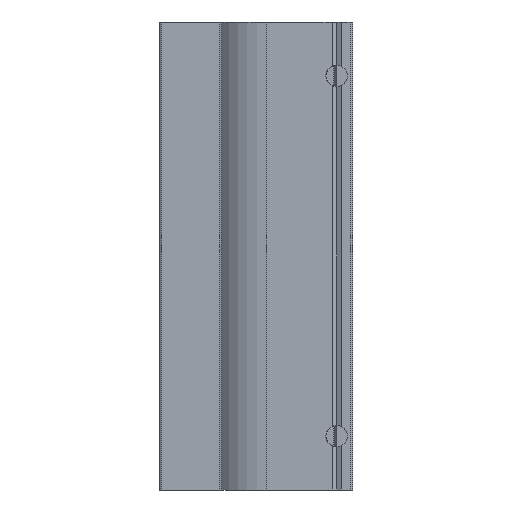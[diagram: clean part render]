
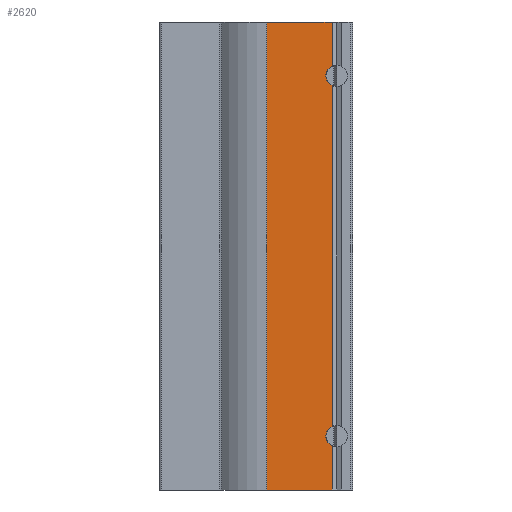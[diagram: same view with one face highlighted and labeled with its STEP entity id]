
A CAD part, left-side view. The second image highlights one B-rep face of the part: STEP entity #2620.
In plain terms, the highlighted planar face has unit normal (-1, 0, 0).
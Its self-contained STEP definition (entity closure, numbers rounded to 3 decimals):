
#45=LINE('',#4019,#237);
#46=LINE('',#4021,#238);
#47=LINE('',#4023,#239);
#48=LINE('',#4025,#240);
#49=LINE('',#4026,#241);
#50=LINE('',#4027,#242);
#237=VECTOR('',#3189,8.197);
#238=VECTOR('',#3190,12.134);
#239=VECTOR('',#3191,87.);
#240=VECTOR('',#3192,12.134);
#241=VECTOR('',#3193,8.197);
#242=VECTOR('',#3194,63.394);
#412=PLANE('',#2808);
#626=FACE_OUTER_BOUND('',#776,.T.);
#776=EDGE_LOOP('',(#1857,#1858,#1859,#1860,#1861,#1862,#1863,#1864));
#993=CIRCLE('',#2770,2.);
#1000=CIRCLE('',#2787,2.);
#1131=VERTEX_POINT('',#3883);
#1135=VERTEX_POINT('',#3891);
#1147=VERTEX_POINT('',#3926);
#1151=VERTEX_POINT('',#3934);
#1177=VERTEX_POINT('',#4018);
#1178=VERTEX_POINT('',#4020);
#1179=VERTEX_POINT('',#4022);
#1180=VERTEX_POINT('',#4024);
#1407=EDGE_CURVE('',#1131,#1135,#993,.T.);
#1423=EDGE_CURVE('',#1147,#1151,#1000,.T.);
#1460=EDGE_CURVE('',#1135,#1177,#45,.T.);
#1461=EDGE_CURVE('',#1177,#1178,#46,.T.);
#1462=EDGE_CURVE('',#1179,#1178,#47,.T.);
#1463=EDGE_CURVE('',#1179,#1180,#48,.T.);
#1464=EDGE_CURVE('',#1180,#1147,#49,.T.);
#1465=EDGE_CURVE('',#1151,#1131,#50,.T.);
#1857=ORIENTED_EDGE('',*,*,#1407,.T.);
#1858=ORIENTED_EDGE('',*,*,#1460,.T.);
#1859=ORIENTED_EDGE('',*,*,#1461,.T.);
#1860=ORIENTED_EDGE('',*,*,#1462,.F.);
#1861=ORIENTED_EDGE('',*,*,#1463,.T.);
#1862=ORIENTED_EDGE('',*,*,#1464,.T.);
#1863=ORIENTED_EDGE('',*,*,#1423,.T.);
#1864=ORIENTED_EDGE('',*,*,#1465,.T.);
#2620=ADVANCED_FACE('',(#626),#412,.T.);
#2770=AXIS2_PLACEMENT_3D('',#3893,#3086,#3087);
#2787=AXIS2_PLACEMENT_3D('',#3936,#3120,#3121);
#2808=AXIS2_PLACEMENT_3D('',#4017,#3187,#3188);
#3086=DIRECTION('center_axis',(1.,0.,0.));
#3087=DIRECTION('ref_axis',(0.,0.,1.));
#3120=DIRECTION('center_axis',(1.,0.,0.));
#3121=DIRECTION('ref_axis',(0.,0.,1.));
#3187=DIRECTION('center_axis',(-1.,0.,0.));
#3188=DIRECTION('ref_axis',(0.,0.,1.));
#3189=DIRECTION('',(0.,0.,1.));
#3190=DIRECTION('',(0.,1.,0.));
#3191=DIRECTION('',(0.,0.,1.));
#3192=DIRECTION('',(0.,-1.,0.));
#3193=DIRECTION('',(0.,0.,1.));
#3194=DIRECTION('',(0.,0.,1.));
#3883=CARTESIAN_POINT('',(-36.,3.866,31.697));
#3891=CARTESIAN_POINT('',(-36.,3.866,35.303));
#3893=CARTESIAN_POINT('Origin',(-36.,3.,33.5));
#3926=CARTESIAN_POINT('',(-36.,3.866,-35.303));
#3934=CARTESIAN_POINT('',(-36.,3.866,-31.697));
#3936=CARTESIAN_POINT('Origin',(-36.,3.,-33.5));
#4017=CARTESIAN_POINT('Origin',(-36.,3.866,0.));
#4018=CARTESIAN_POINT('',(-36.,3.866,43.5));
#4019=CARTESIAN_POINT('',(-36.,3.866,0.));
#4020=CARTESIAN_POINT('',(-36.,16.,43.5));
#4021=CARTESIAN_POINT('',(-36.,16.,43.5));
#4022=CARTESIAN_POINT('',(-36.,16.,-43.5));
#4023=CARTESIAN_POINT('',(-36.,16.,0.));
#4024=CARTESIAN_POINT('',(-36.,3.866,-43.5));
#4025=CARTESIAN_POINT('',(-36.,16.,-43.5));
#4026=CARTESIAN_POINT('',(-36.,3.866,0.));
#4027=CARTESIAN_POINT('',(-36.,3.866,0.));
